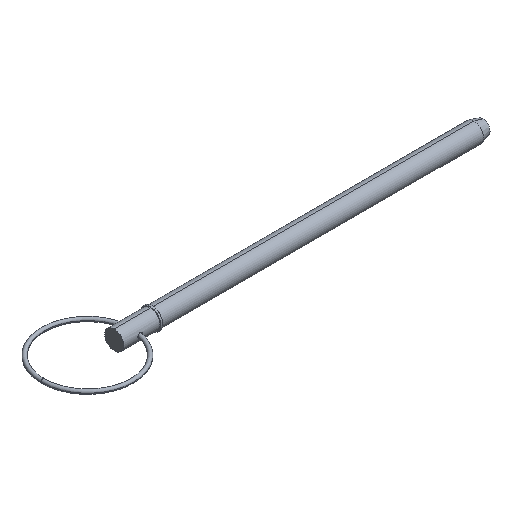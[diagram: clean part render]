
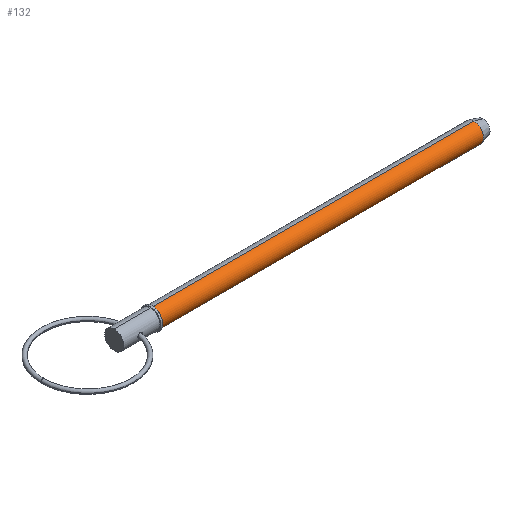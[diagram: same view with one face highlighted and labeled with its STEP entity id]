
A CAD part, isometric view. The second image highlights one B-rep face of the part: STEP entity #132.
In plain terms, the highlighted cylindrical face has radius 4.765 mm (diameter 9.53 mm), a partial arc.
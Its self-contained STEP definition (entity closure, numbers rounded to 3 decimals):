
#23 = CARTESIAN_POINT ( 'NONE',  ( 0., 0., 4.765 ) ) ;
#28 = VECTOR ( 'NONE', #91, 1000. ) ;
#31 = CYLINDRICAL_SURFACE ( 'NONE', #636, 4.765 ) ;
#63 = VERTEX_POINT ( 'NONE', #880 ) ;
#91 = DIRECTION ( 'NONE',  ( 1., 0., 0. ) ) ;
#96 = CARTESIAN_POINT ( 'NONE',  ( 0., 0., -4.765 ) ) ;
#101 = EDGE_CURVE ( 'NONE', #617, #448, #104, .T. ) ;
#104 = CIRCLE ( 'NONE', #550, 4.765 ) ;
#132 = ADVANCED_FACE ( 'NONE', ( #663 ), #31, .T. ) ;
#217 = DIRECTION ( 'NONE',  ( 1., 0., 0. ) ) ;
#219 = ORIENTED_EDGE ( 'NONE', *, *, #411, .T. ) ;
#293 = ORIENTED_EDGE ( 'NONE', *, *, #773, .F. ) ;
#304 = ORIENTED_EDGE ( 'NONE', *, *, #564, .T. ) ;
#411 = EDGE_CURVE ( 'NONE', #787, #63, #825, .T. ) ;
#448 = VERTEX_POINT ( 'NONE', #698 ) ;
#487 = CARTESIAN_POINT ( 'NONE',  ( 179.704, 0., 4.765 ) ) ;
#511 = CARTESIAN_POINT ( 'NONE',  ( 179.704, 0., 0. ) ) ;
#531 = DIRECTION ( 'NONE',  ( 0., 0., -1. ) ) ;
#550 = AXIS2_PLACEMENT_3D ( 'NONE', #511, #821, #974 ) ;
#564 = EDGE_CURVE ( 'NONE', #63, #448, #1014, .T. ) ;
#617 = VERTEX_POINT ( 'NONE', #487 ) ;
#631 = EDGE_LOOP ( 'NONE', ( #293, #219, #304, #756 ) ) ;
#636 = AXIS2_PLACEMENT_3D ( 'NONE', #895, #984, #815 ) ;
#641 = CARTESIAN_POINT ( 'NONE',  ( 19.05, 0., 0. ) ) ;
#643 = DIRECTION ( 'NONE',  ( 1., 0., 0. ) ) ;
#663 = FACE_OUTER_BOUND ( 'NONE', #631, .T. ) ;
#698 = CARTESIAN_POINT ( 'NONE',  ( 179.704, 0., -4.765 ) ) ;
#719 = CARTESIAN_POINT ( 'NONE',  ( 19.05, 0., 4.765 ) ) ;
#756 = ORIENTED_EDGE ( 'NONE', *, *, #101, .F. ) ;
#763 = AXIS2_PLACEMENT_3D ( 'NONE', #641, #217, #531 ) ;
#773 = EDGE_CURVE ( 'NONE', #787, #617, #942, .T. ) ;
#787 = VERTEX_POINT ( 'NONE', #719 ) ;
#815 = DIRECTION ( 'NONE',  ( 0., 0., -1. ) ) ;
#821 = DIRECTION ( 'NONE',  ( 1., 0., 0. ) ) ;
#825 = CIRCLE ( 'NONE', #763, 4.765 ) ;
#880 = CARTESIAN_POINT ( 'NONE',  ( 19.05, 0., -4.765 ) ) ;
#895 = CARTESIAN_POINT ( 'NONE',  ( 0., 0., 0. ) ) ;
#942 = LINE ( 'NONE', #23, #964 ) ;
#964 = VECTOR ( 'NONE', #643, 1000. ) ;
#974 = DIRECTION ( 'NONE',  ( 0., 0., -1. ) ) ;
#984 = DIRECTION ( 'NONE',  ( 1., 0., 0. ) ) ;
#1014 = LINE ( 'NONE', #96, #28 ) ;
